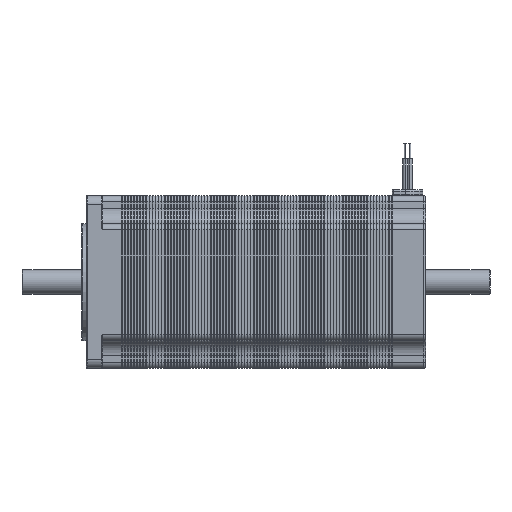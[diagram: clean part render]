
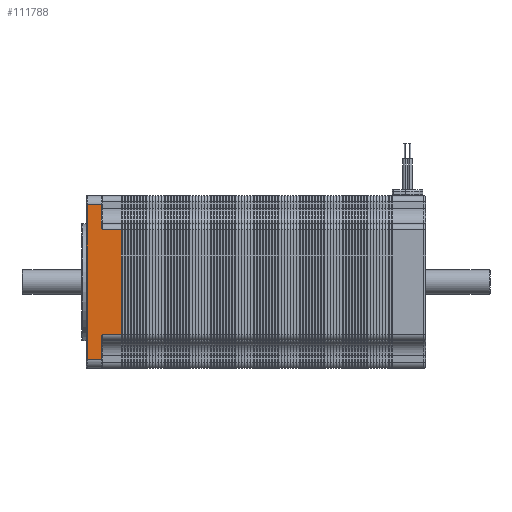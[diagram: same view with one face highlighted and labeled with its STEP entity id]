
A CAD part, left-side view. The second image highlights one B-rep face of the part: STEP entity #111788.
In plain terms, the highlighted planar face has unit normal (-1, 0, 0).
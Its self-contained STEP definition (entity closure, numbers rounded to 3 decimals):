
#1496 = B_SPLINE_CURVE_WITH_KNOTS ( 'NONE', 3,
 ( #17347, #288563, #174307, #153728, #40639, #196306 ),
 .UNSPECIFIED., .F., .F.,
 ( 4, 2, 4 ),
 ( 0., 0.001, 0.001 ),
 .UNSPECIFIED. ) ;
#5891 = ORIENTED_EDGE ( 'NONE', *, *, #263285, .T. ) ;
#7399 = CARTESIAN_POINT ( 'NONE',  ( -28.15, 110.5, 17. ) ) ;
#10080 = CARTESIAN_POINT ( 'NONE',  ( -28.15, 105.7, -18.265 ) ) ;
#10571 = CARTESIAN_POINT ( 'NONE',  ( -28.15, 105.7, 18.04 ) ) ;
#13416 = CARTESIAN_POINT ( 'NONE',  ( -28.15, 105.395, 17.202 ) ) ;
#17347 = CARTESIAN_POINT ( 'NONE',  ( -28.15, 105.7, -18.265 ) ) ;
#19469 = CARTESIAN_POINT ( 'NONE',  ( -28.15, 110.3, -25.15 ) ) ;
#26925 = VECTOR ( 'NONE', #275685, 1000. ) ;
#31107 = CARTESIAN_POINT ( 'NONE',  ( -28.15, 99.1, 17. ) ) ;
#34213 = CARTESIAN_POINT ( 'NONE',  ( -28.15, 105.5, -25.15 ) ) ;
#38312 = EDGE_CURVE ( 'NONE', #83977, #59002, #1496, .T. ) ;
#38960 = EDGE_CURVE ( 'NONE', #77937, #83977, #254169, .T. ) ;
#40639 = CARTESIAN_POINT ( 'NONE',  ( -28.15, 105.395, -17.201 ) ) ;
#42552 = LINE ( 'NONE', #85175, #65647 ) ;
#42642 = VERTEX_POINT ( 'NONE', #263050 ) ;
#45790 = ORIENTED_EDGE ( 'NONE', *, *, #221504, .T. ) ;
#57641 = EDGE_CURVE ( 'NONE', #187158, #79975, #95293, .T. ) ;
#59002 = VERTEX_POINT ( 'NONE', #210935 ) ;
#60544 = DIRECTION ( 'NONE',  ( 0., 1., 0. ) ) ;
#62443 = PLANE ( 'NONE',  #97114 ) ;
#65647 = VECTOR ( 'NONE', #132036, 1000. ) ;
#71209 = LINE ( 'NONE', #131436, #159284 ) ;
#75580 = CARTESIAN_POINT ( 'NONE',  ( -28.15, 110.3, -25.15 ) ) ;
#77937 = VERTEX_POINT ( 'NONE', #231991 ) ;
#78951 = CARTESIAN_POINT ( 'NONE',  ( -28.15, 99.1, -17. ) ) ;
#79975 = VERTEX_POINT ( 'NONE', #31107 ) ;
#82263 = CARTESIAN_POINT ( 'NONE',  ( -28.15, 105.491, 17.403 ) ) ;
#83977 = VERTEX_POINT ( 'NONE', #10080 ) ;
#85175 = CARTESIAN_POINT ( 'NONE',  ( -28.15, 105.5, 25.15 ) ) ;
#85535 = DIRECTION ( 'NONE',  ( 0., 0., 1. ) ) ;
#87121 = ORIENTED_EDGE ( 'NONE', *, *, #57641, .F. ) ;
#95293 = LINE ( 'NONE', #7399, #26925 ) ;
#97114 = AXIS2_PLACEMENT_3D ( 'NONE', #150514, #106429, #103534 ) ;
#99419 = ORIENTED_EDGE ( 'NONE', *, *, #278001, .F. ) ;
#102821 = CARTESIAN_POINT ( 'NONE',  ( -28.15, 105.642, 17.823 ) ) ;
#102947 = ORIENTED_EDGE ( 'NONE', *, *, #38312, .T. ) ;
#103534 = DIRECTION ( 'NONE',  ( 0., 0., -1. ) ) ;
#106429 = DIRECTION ( 'NONE',  ( 1., 0., 0. ) ) ;
#108145 = CARTESIAN_POINT ( 'NONE',  ( -28.15, 105.7, 18.265 ) ) ;
#111107 = B_SPLINE_CURVE_WITH_KNOTS ( 'NONE', 3,
 ( #219278, #13416, #82263, #102821, #10571, #171835 ),
 .UNSPECIFIED., .F., .F.,
 ( 4, 2, 4 ),
 ( 0., 0.001, 0.001 ),
 .UNSPECIFIED. ) ;
#111788 = ADVANCED_FACE ( 'NONE', ( #215195 ), #62443, .F. ) ;
#112764 = CARTESIAN_POINT ( 'NONE',  ( -28.15, 105.3, 17. ) ) ;
#114713 = LINE ( 'NONE', #274561, #208360 ) ;
#114859 = ORIENTED_EDGE ( 'NONE', *, *, #117079, .T. ) ;
#117079 = EDGE_CURVE ( 'NONE', #59002, #207662, #114713, .T. ) ;
#118021 = VERTEX_POINT ( 'NONE', #108145 ) ;
#119475 = VECTOR ( 'NONE', #168502, 1000. ) ;
#124316 = LINE ( 'NONE', #78951, #119475 ) ;
#131436 = CARTESIAN_POINT ( 'NONE',  ( -28.15, 105.7, -17. ) ) ;
#132036 = DIRECTION ( 'NONE',  ( 0., 1., 0. ) ) ;
#139723 = CARTESIAN_POINT ( 'NONE',  ( -28.15, 99.1, -17. ) ) ;
#142553 = DIRECTION ( 'NONE',  ( 0., -1., 0. ) ) ;
#145233 = VERTEX_POINT ( 'NONE', #177876 ) ;
#145837 = VERTEX_POINT ( 'NONE', #19469 ) ;
#150096 = ORIENTED_EDGE ( 'NONE', *, *, #241141, .T. ) ;
#150514 = CARTESIAN_POINT ( 'NONE',  ( -28.15, 110.5, -17. ) ) ;
#153728 = CARTESIAN_POINT ( 'NONE',  ( -28.15, 105.491, -17.403 ) ) ;
#155861 = EDGE_CURVE ( 'NONE', #187158, #118021, #111107, .T. ) ;
#159284 = VECTOR ( 'NONE', #85535, 1000. ) ;
#162655 = ORIENTED_EDGE ( 'NONE', *, *, #155861, .T. ) ;
#168502 = DIRECTION ( 'NONE',  ( 0., 0., 1. ) ) ;
#171835 = CARTESIAN_POINT ( 'NONE',  ( -28.15, 105.7, 18.265 ) ) ;
#174307 = CARTESIAN_POINT ( 'NONE',  ( -28.15, 105.642, -17.823 ) ) ;
#177876 = CARTESIAN_POINT ( 'NONE',  ( -28.15, 110.3, 25.15 ) ) ;
#187158 = VERTEX_POINT ( 'NONE', #112764 ) ;
#196306 = CARTESIAN_POINT ( 'NONE',  ( -28.15, 105.3, -17. ) ) ;
#207662 = VERTEX_POINT ( 'NONE', #139723 ) ;
#208360 = VECTOR ( 'NONE', #142553, 1000. ) ;
#210935 = CARTESIAN_POINT ( 'NONE',  ( -28.15, 105.3, -17. ) ) ;
#211667 = CARTESIAN_POINT ( 'NONE',  ( -28.15, 105.7, -17. ) ) ;
#212117 = DIRECTION ( 'NONE',  ( 0., 0., -1. ) ) ;
#213086 = DIRECTION ( 'NONE',  ( 0., 0., 1. ) ) ;
#214447 = VECTOR ( 'NONE', #60544, 1000. ) ;
#215195 = FACE_OUTER_BOUND ( 'NONE', #229912, .T. ) ;
#219278 = CARTESIAN_POINT ( 'NONE',  ( -28.15, 105.3, 17. ) ) ;
#219833 = VECTOR ( 'NONE', #212117, 1000. ) ;
#221504 = EDGE_CURVE ( 'NONE', #145233, #145837, #260372, .T. ) ;
#229912 = EDGE_LOOP ( 'NONE', ( #150096, #45790, #99419, #232643, #102947, #114859, #5891, #87121, #162655, #231940 ) ) ;
#231940 = ORIENTED_EDGE ( 'NONE', *, *, #259443, .T. ) ;
#231991 = CARTESIAN_POINT ( 'NONE',  ( -28.15, 105.7, -25.15 ) ) ;
#232643 = ORIENTED_EDGE ( 'NONE', *, *, #38960, .T. ) ;
#241141 = EDGE_CURVE ( 'NONE', #42642, #145233, #42552, .T. ) ;
#253292 = VECTOR ( 'NONE', #213086, 1000. ) ;
#254169 = LINE ( 'NONE', #211667, #253292 ) ;
#259443 = EDGE_CURVE ( 'NONE', #118021, #42642, #71209, .T. ) ;
#260372 = LINE ( 'NONE', #75580, #219833 ) ;
#263050 = CARTESIAN_POINT ( 'NONE',  ( -28.15, 105.7, 25.15 ) ) ;
#263285 = EDGE_CURVE ( 'NONE', #207662, #79975, #124316, .T. ) ;
#274561 = CARTESIAN_POINT ( 'NONE',  ( -28.15, 110.5, -17. ) ) ;
#275685 = DIRECTION ( 'NONE',  ( 0., -1., 0. ) ) ;
#278001 = EDGE_CURVE ( 'NONE', #77937, #145837, #280657, .T. ) ;
#280657 = LINE ( 'NONE', #34213, #214447 ) ;
#288563 = CARTESIAN_POINT ( 'NONE',  ( -28.15, 105.7, -18.04 ) ) ;
